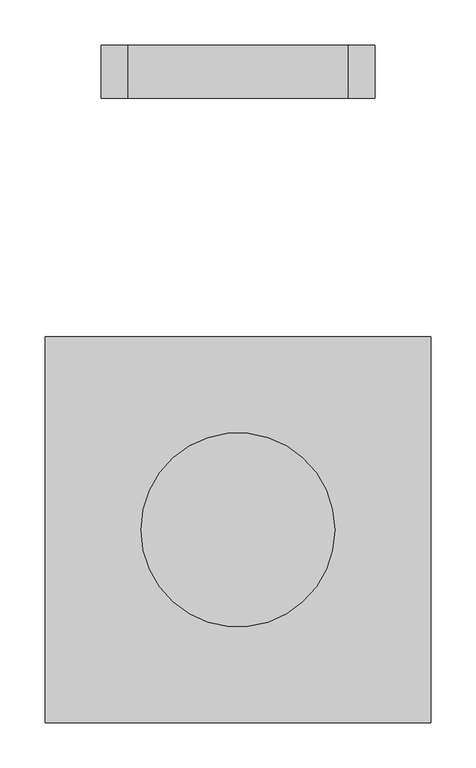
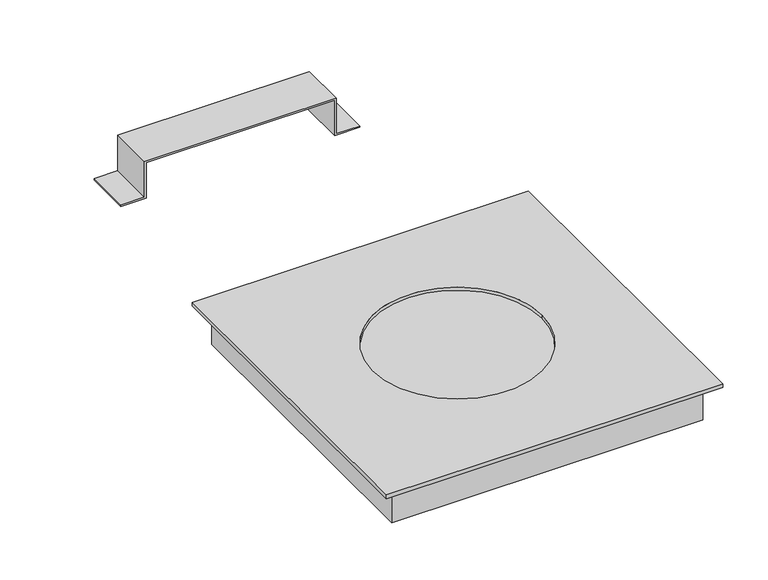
"""IFC4 building model written with IfcOpenShell, lengths in millimetres: cable carrier fitting geometry, Electrical-Installations_Hager_Universal-Junction-Box-With-Retaining-Tabs-Size-2-Angled : Universal junction box with retaining tabs size 2."""

from ifc_helpers import new_model, si_unit, frame, origin, place, context, project, spatial, polyline, circle_curve, outline, extrude, faceted_brep, source, transform, mapped, element, save
from ifc_brep_helpers import plane_surface, revolved_surface, advanced_brep


def cable_carrier_fitting_cbbdd0ad(model_context):
    return source(origin(), model_context, "Body", "SolidModel", [
        extrude(outline(polyline([(-24.0, -152.0), (-24.0, -120.0), (24.0, -120.0), (24.0, 120.0), (-24.0, 120.0), (-24.0, 152.0), (-22.0, 152.0), (-22.0, 122.0), (26.0, 122.0), (26.0, -122.0), (-22.0, -122.0), (-22.0, -152.0), (-24.0, -152.0)])), frame((0.0, 478.5, 0.0), z_axis=(0.0, 1.0, 0.0), x_axis=(0.0, 0.0, 1.0)), (0.0, 0.0, 1.0), 59.0),
        advanced_brep(
        [(-214.0, -214.0, 29.0), (214.0, -214.0, 29.0), (214.0, 214.0, 29.0), (-214.0, 214.0, 29.0), (-107.5, 0.0, 29.0), (107.5, 0.0, 29.0), (-214.0, -214.0, 24.0), (-214.0, 214.0, 24.0), (214.0, 214.0, 24.0), (214.0, -214.0, 24.0), (192.0, 192.0, 24.0), (-192.0, 192.0, 24.0), (-192.0, -192.0, 24.0), (192.0, -192.0, 24.0), (-107.5, 0.0, 24.7820613), (107.5, 0.0, 24.7820613), (192.0, 192.0, 24.7820613), (192.0, -192.0, 24.7820613), (-192.0, -192.0, 24.7820613), (-192.0, 192.0, 24.7820613)],
        [
            (0, 1),
            (1, 2),
            (2, 3),
            (3, 0),
            (4, 5, circle_curve(frame((0.0, 0.0, 29.0), z_axis=(0.0, 0.0, -1.0), x_axis=(1.0, 0.0, 0.0)), 107.5)),
            (5, 4, circle_curve(frame((0.0, 0.0, 29.0), z_axis=(0.0, 0.0, -1.0), x_axis=(1.0, 0.0, 0.0)), 107.5)),
            (6, 7),
            (7, 8),
            (8, 9),
            (9, 6),
            (10, 11),
            (11, 12),
            (12, 13),
            (13, 10),
            (0, 6),
            (9, 1),
            (8, 2),
            (7, 3),
            (4, 14),
            (14, 15, circle_curve(frame((0.0, 0.0, 24.7820613), z_axis=(0.0, 0.0, -1.0), x_axis=(1.0, 0.0, 0.0)), 107.5)),
            (15, 5),
            (15, 14, circle_curve(frame((0.0, 0.0, 24.7820613), z_axis=(0.0, 0.0, -1.0), x_axis=(1.0, 0.0, 0.0)), 107.5)),
            (16, 17),
            (17, 18),
            (18, 19),
            (19, 16),
            (19, 11),
            (10, 16),
            (18, 12),
            (17, 13),
        ],
        [
            plane_surface(frame((-214.0, -214.0, 29.0), z_axis=(0.0, 0.0, 1.0), x_axis=(1.0, 0.0, 0.0))),
            plane_surface(frame((-214.0, -214.0, 24.0), z_axis=(0.0, 0.0, -1.0), x_axis=(-1.0, 0.0, 0.0))),
            plane_surface(frame((-214.0, -214.0, 29.0), z_axis=(0.0, -1.0, 0.0), x_axis=(0.0, 0.0, -1.0))),
            plane_surface(frame((214.0, -214.0, 29.0), z_axis=(1.0, 0.0, 0.0), x_axis=(0.0, 0.0, -1.0))),
            plane_surface(frame((214.0, 214.0, 29.0), z_axis=(0.0, 1.0, 0.0), x_axis=(0.0, 0.0, -1.0))),
            plane_surface(frame((-214.0, 214.0, 29.0), z_axis=(-1.0, 0.0, 0.0), x_axis=(0.0, 0.0, -1.0))),
            revolved_surface(polyline([(107.5, 0.0, 24.7820613), (107.5, 0.0, 29.0)]), (0.0, 0.0, 0.0), (0.0, 0.0, -1.0)),
            plane_surface(frame((-192.0, 192.0, 24.7820613), z_axis=(0.0, 0.0, -1.0), x_axis=(-1.0, 0.0, 0.0))),
            plane_surface(frame((192.0, 192.0, 24.7820613), z_axis=(0.0, -1.0, 0.0), x_axis=(0.0, 0.0, -1.0))),
            plane_surface(frame((-192.0, 192.0, 24.7820613), z_axis=(1.0, 0.0, 0.0), x_axis=(0.0, 0.0, -1.0))),
            plane_surface(frame((-192.0, -192.0, 24.7820613), z_axis=(0.0, 1.0, 0.0), x_axis=(0.0, 0.0, -1.0))),
            plane_surface(frame((192.0, -192.0, 24.7820613), z_axis=(-1.0, 0.0, 0.0), x_axis=(0.0, 0.0, -1.0))),
        ],
        [
            (0, [[1, 2, 3, 4], [5, 6]]),
            (1, [[7, 8, 9, 10], [11, 12, 13, 14]]),
            (2, [[-1, 15, -10, 16]]),
            (3, [[-2, -16, -9, 17]]),
            (4, [[-3, -17, -8, 18]]),
            (5, [[-4, -18, -7, -15]]),
            (6, [[-5, 19, 20, 21]]),
            (6, [[-6, -21, 22, -19]]),
            (7, [[23, 24, 25, 26], [-20, -22]]),
            (8, [[-26, 27, -11, 28]]),
            (9, [[-25, 29, -12, -27]]),
            (10, [[-24, 30, -13, -29]]),
            (11, [[-23, -28, -14, -30]]),
        ],
    ),
        faceted_brep([(-198.0, 198.0, 24.0), (-198.0, -198.0, 24.0), (198.0, -198.0, 24.0), (198.0, 198.0, 24.0), (-192.0, 192.0, 24.0), (192.0, 192.0, 24.0), (192.0, -192.0, 24.0), (-192.0, -192.0, 24.0), (-198.0, 198.0, -24.0), (198.0, 198.0, -24.0), (198.0, -198.0, -24.0), (-198.0, -198.0, -24.0), (192.0, 192.0, -16.1362798), (-192.0, 192.0, -16.1362798), (-192.0, -192.0, -16.1362798), (192.0, -192.0, -16.1362798)], [[[0, 1, 2, 3], [4, 5, 6, 7]], [[8, 9, 10, 11]], [[1, 0, 8, 11]], [[2, 1, 11, 10]], [[3, 2, 10, 9]], [[0, 3, 9, 8]], [[12, 13, 14, 15]], [[13, 12, 5, 4]], [[14, 13, 4, 7]], [[15, 14, 7, 6]], [[12, 15, 6, 5]]]),
    ])


if __name__ == "__main__":
    model = new_model("IFC4")
    model_context = context("Model", 3, world=origin())
    ifc_project = project(units=[si_unit("LENGTHUNIT", "METRE", prefix="MILLI")], contexts=[model_context])
    site = spatial("IfcSite", under=ifc_project)
    building = spatial("IfcBuilding", under=site)
    placement = place(None, origin())
    cable_carrier_fitting_shape = cable_carrier_fitting_cbbdd0ad(model_context)
    element("IfcCableCarrierFitting", 1, ObjectType="Electrical-Installations_Hager_Universal-Junction-Box-With-Retaining-Tabs-Size-2-Angled : Universal junction box with retaining tabs size 2", at=placement, inside=building, context=model_context, shape_type="MappedRepresentation", body=[
        mapped(cable_carrier_fitting_shape, transform((0.0, 0.0, 0.0), x_axis=(1.0, 0.0, 0.0), y_axis=(0.0, 1.0, 0.0), z_axis=(0.0, 0.0, 1.0))),
    ])
    save(model, "model.ifc")
